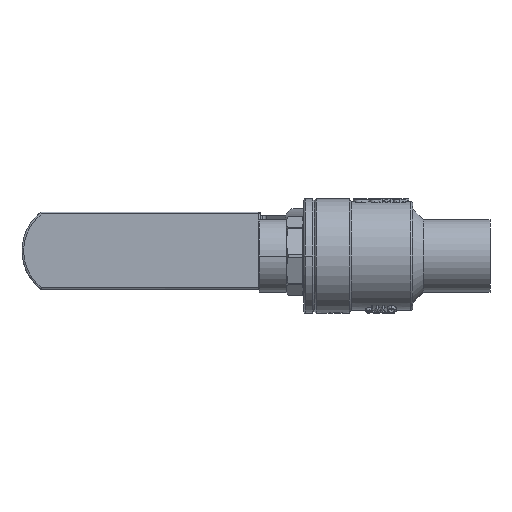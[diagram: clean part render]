
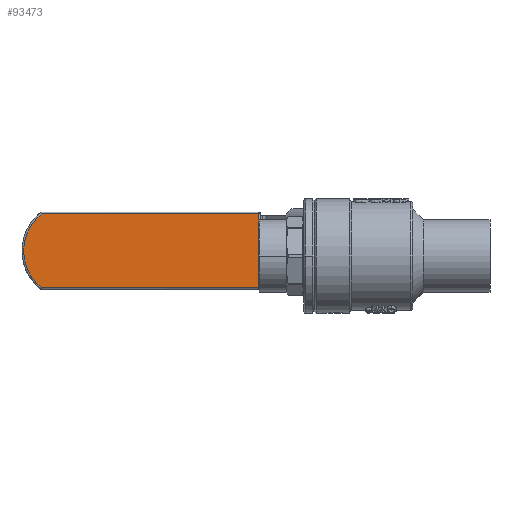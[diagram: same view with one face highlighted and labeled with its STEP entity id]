
A CAD part, front view. The second image highlights one B-rep face of the part: STEP entity #93473.
In plain terms, the highlighted planar face has unit normal (0, -1, 0).
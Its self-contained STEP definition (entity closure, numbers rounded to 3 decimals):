
#1216 = CARTESIAN_POINT ( 'NONE',  ( -66.573, -4., 10. ) ) ;
#10360 = FACE_OUTER_BOUND ( 'NONE', #79272, .T. ) ;
#11110 = CARTESIAN_POINT ( 'NONE',  ( -4.515, -4., -10.5 ) ) ;
#18142 = PLANE ( 'NONE',  #34069 ) ;
#21928 = CIRCLE ( 'NONE', #105596, 13.5 ) ;
#27454 = DIRECTION ( 'NONE',  ( -1., 0., 0. ) ) ;
#27868 = DIRECTION ( 'NONE',  ( 0., 0., -1. ) ) ;
#32555 = CARTESIAN_POINT ( 'NONE',  ( -4.515, -4., 10.5 ) ) ;
#34069 = AXIS2_PLACEMENT_3D ( 'NONE', #37221, #109654, #27454 ) ;
#35757 = ORIENTED_EDGE ( 'NONE', *, *, #47675, .T. ) ;
#37221 = CARTESIAN_POINT ( 'NONE',  ( -67.073, -4., 10. ) ) ;
#40910 = DIRECTION ( 'NONE',  ( -1., 0., 0. ) ) ;
#43113 = VERTEX_POINT ( 'NONE', #86055 ) ;
#47675 = EDGE_CURVE ( 'NONE', #81843, #71126, #67730, .T. ) ;
#50524 = LINE ( 'NONE', #64647, #60553 ) ;
#53189 = VECTOR ( 'NONE', #70562, 1000. ) ;
#60553 = VECTOR ( 'NONE', #76380, 1000. ) ;
#63183 = ORIENTED_EDGE ( 'NONE', *, *, #112211, .T. ) ;
#64647 = CARTESIAN_POINT ( 'NONE',  ( -67.073, -4., 10.5 ) ) ;
#66557 = VECTOR ( 'NONE', #27868, 1000. ) ;
#67730 = LINE ( 'NONE', #116691, #53189 ) ;
#70562 = DIRECTION ( 'NONE',  ( 1., 0., 0. ) ) ;
#70859 = EDGE_CURVE ( 'NONE', #71126, #88593, #21928, .T. ) ;
#71126 = VERTEX_POINT ( 'NONE', #11110 ) ;
#76380 = DIRECTION ( 'NONE',  ( -1., 0., 0. ) ) ;
#79272 = EDGE_LOOP ( 'NONE', ( #63183, #112718, #35757, #116913 ) ) ;
#81843 = VERTEX_POINT ( 'NONE', #96264 ) ;
#86055 = CARTESIAN_POINT ( 'NONE',  ( -66.573, -4., 10.5 ) ) ;
#87432 = DIRECTION ( 'NONE',  ( 0., -1., 0. ) ) ;
#88593 = VERTEX_POINT ( 'NONE', #32555 ) ;
#93473 = ADVANCED_FACE ( 'NONE', ( #10360 ), #18142, .F. ) ;
#95576 = EDGE_CURVE ( 'NONE', #43113, #81843, #102800, .T. ) ;
#96264 = CARTESIAN_POINT ( 'NONE',  ( -66.573, -4., -10.5 ) ) ;
#102800 = LINE ( 'NONE', #1216, #66557 ) ;
#105596 = AXIS2_PLACEMENT_3D ( 'NONE', #106075, #87432, #40910 ) ;
#106075 = CARTESIAN_POINT ( 'NONE',  ( -13., -4., 0. ) ) ;
#109654 = DIRECTION ( 'NONE',  ( 0., 1., 0. ) ) ;
#112211 = EDGE_CURVE ( 'NONE', #88593, #43113, #50524, .T. ) ;
#112718 = ORIENTED_EDGE ( 'NONE', *, *, #95576, .T. ) ;
#116691 = CARTESIAN_POINT ( 'NONE',  ( -67.073, -4., -10.5 ) ) ;
#116913 = ORIENTED_EDGE ( 'NONE', *, *, #70859, .T. ) ;
